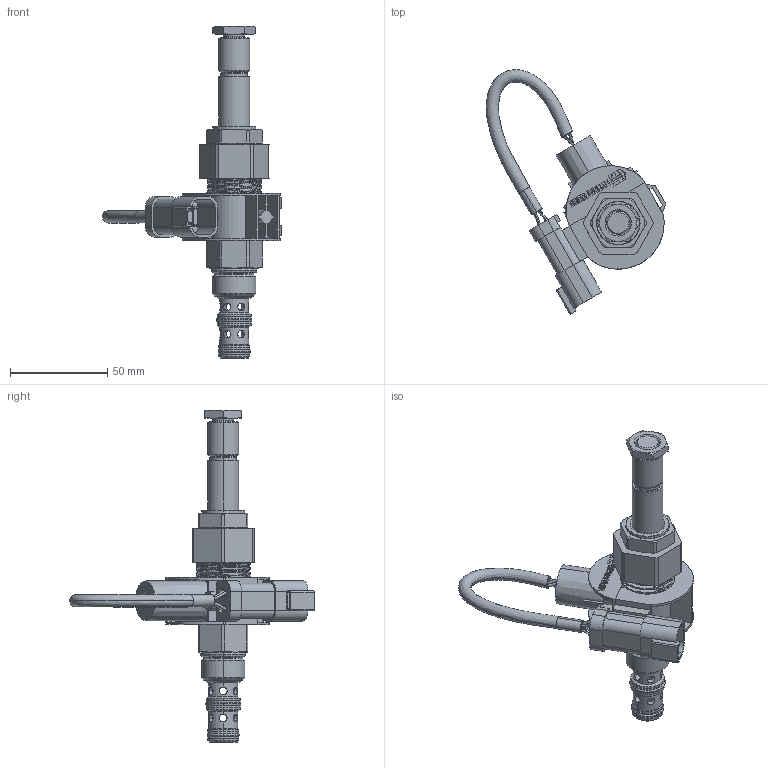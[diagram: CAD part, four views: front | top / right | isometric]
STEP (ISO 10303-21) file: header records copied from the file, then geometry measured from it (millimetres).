
FILE_DESCRIPTION((''),'2;1');
FILE_NAME('SV10-P31-X-X-XXXX-XX-M_SW0001','2021-07-27T09:09:18',('ab7'),(''),'CREO PARAMETRIC BY PTC INC, 2020184','CREO PARAMETRIC BY PTC INC, 2020184','');
FILE_SCHEMA(('CONFIG_CONTROL_DESIGN'));
Products named in the file (1): SV10-P31-X-X-XXXX-XX-M_SW0001
Bounding box: 92.01 x 125.49 x 170.28 mm (x, y, z)
Volume: 96806.4 mm3; surface area: 44746.2 mm2
Topology: 1 solids, 1 shells, 981 faces, 2715 edges, 1738 vertices
Faces by surface type: plane 418, cylinder 283, cone 90, bspline 66, extrusion 64, torus 28, revolution 24, sphere 8
Entity records: 46498 total; most frequent: CARTESIAN_POINT 22799, ORIENTED_EDGE 5406, DIRECTION 4081, EDGE_CURVE 2703, VERTEX_POINT 1738, VECTOR 1459, LINE 1395, AXIS2_PLACEMENT_3D 1299
